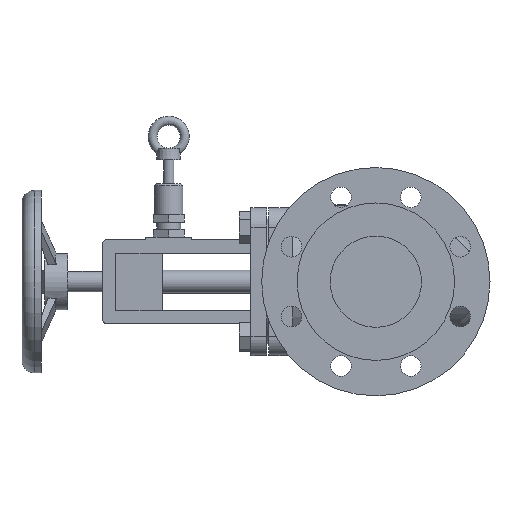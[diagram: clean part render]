
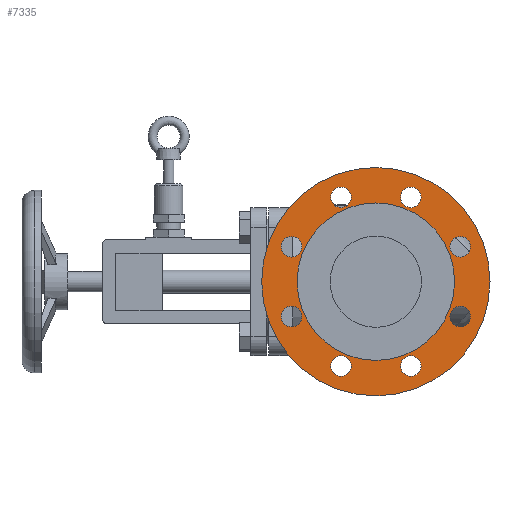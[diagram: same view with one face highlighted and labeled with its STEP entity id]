
A CAD part, left-side view. The second image highlights one B-rep face of the part: STEP entity #7335.
In plain terms, the highlighted planar face has unit normal (-1, 0, 0).
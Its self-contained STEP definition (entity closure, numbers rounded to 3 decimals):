
#226=FACE_BOUND('',#2624,.T.);
#227=FACE_BOUND('',#2625,.T.);
#228=FACE_BOUND('',#2626,.T.);
#229=FACE_BOUND('',#2627,.T.);
#230=FACE_BOUND('',#2628,.T.);
#231=FACE_BOUND('',#2629,.T.);
#232=FACE_BOUND('',#2630,.T.);
#233=FACE_BOUND('',#2631,.T.);
#234=FACE_BOUND('',#2632,.T.);
#1818=PLANE('',#7794);
#2189=FACE_OUTER_BOUND('',#2623,.T.);
#2623=EDGE_LOOP('',(#6501));
#2624=EDGE_LOOP('',(#6502));
#2625=EDGE_LOOP('',(#6503));
#2626=EDGE_LOOP('',(#6504));
#2627=EDGE_LOOP('',(#6505));
#2628=EDGE_LOOP('',(#6506));
#2629=EDGE_LOOP('',(#6507));
#2630=EDGE_LOOP('',(#6508));
#2631=EDGE_LOOP('',(#6509));
#2632=EDGE_LOOP('',(#6510));
#2756=CIRCLE('',#7703,100.);
#2759=CIRCLE('',#7707,9.);
#2761=CIRCLE('',#7710,9.);
#2763=CIRCLE('',#7713,9.);
#2765=CIRCLE('',#7716,9.);
#2767=CIRCLE('',#7719,9.);
#2769=CIRCLE('',#7722,9.);
#2771=CIRCLE('',#7725,9.);
#2773=CIRCLE('',#7728,9.);
#2774=CIRCLE('',#7730,69.);
#3526=VERTEX_POINT('',#12558);
#3529=VERTEX_POINT('',#12566);
#3531=VERTEX_POINT('',#12572);
#3533=VERTEX_POINT('',#12578);
#3535=VERTEX_POINT('',#12584);
#3537=VERTEX_POINT('',#12590);
#3539=VERTEX_POINT('',#12596);
#3541=VERTEX_POINT('',#12602);
#3543=VERTEX_POINT('',#12608);
#3544=VERTEX_POINT('',#12612);
#4460=EDGE_CURVE('',#3526,#3526,#2756,.T.);
#4465=EDGE_CURVE('',#3529,#3529,#2759,.T.);
#4468=EDGE_CURVE('',#3531,#3531,#2761,.T.);
#4471=EDGE_CURVE('',#3533,#3533,#2763,.T.);
#4474=EDGE_CURVE('',#3535,#3535,#2765,.T.);
#4477=EDGE_CURVE('',#3537,#3537,#2767,.T.);
#4480=EDGE_CURVE('',#3539,#3539,#2769,.T.);
#4483=EDGE_CURVE('',#3541,#3541,#2771,.T.);
#4486=EDGE_CURVE('',#3543,#3543,#2773,.T.);
#4487=EDGE_CURVE('',#3544,#3544,#2774,.T.);
#6501=ORIENTED_EDGE('',*,*,#4460,.F.);
#6502=ORIENTED_EDGE('',*,*,#4468,.F.);
#6503=ORIENTED_EDGE('',*,*,#4471,.F.);
#6504=ORIENTED_EDGE('',*,*,#4474,.F.);
#6505=ORIENTED_EDGE('',*,*,#4477,.F.);
#6506=ORIENTED_EDGE('',*,*,#4480,.F.);
#6507=ORIENTED_EDGE('',*,*,#4483,.F.);
#6508=ORIENTED_EDGE('',*,*,#4486,.F.);
#6509=ORIENTED_EDGE('',*,*,#4465,.F.);
#6510=ORIENTED_EDGE('',*,*,#4487,.F.);
#7335=ADVANCED_FACE('',(#2189,#226,#227,#228,#229,#230,#231,#232,#233,#234),
#1818,.F.);
#7703=AXIS2_PLACEMENT_3D('',#12559,#9025,#9026);
#7707=AXIS2_PLACEMENT_3D('',#12568,#9035,#9036);
#7710=AXIS2_PLACEMENT_3D('',#12574,#9042,#9043);
#7713=AXIS2_PLACEMENT_3D('',#12580,#9049,#9050);
#7716=AXIS2_PLACEMENT_3D('',#12586,#9056,#9057);
#7719=AXIS2_PLACEMENT_3D('',#12592,#9063,#9064);
#7722=AXIS2_PLACEMENT_3D('',#12598,#9070,#9071);
#7725=AXIS2_PLACEMENT_3D('',#12604,#9077,#9078);
#7728=AXIS2_PLACEMENT_3D('',#12610,#9084,#9085);
#7730=AXIS2_PLACEMENT_3D('',#12613,#9088,#9089);
#7794=AXIS2_PLACEMENT_3D('',#12845,#9311,#9312);
#9025=DIRECTION('center_axis',(1.,0.,0.));
#9026=DIRECTION('ref_axis',(0.,0.,-1.));
#9035=DIRECTION('center_axis',(-1.,0.,0.));
#9036=DIRECTION('ref_axis',(0.,0.,-1.));
#9042=DIRECTION('center_axis',(-1.,0.,0.));
#9043=DIRECTION('ref_axis',(0.,0.,-1.));
#9049=DIRECTION('center_axis',(-1.,0.,0.));
#9050=DIRECTION('ref_axis',(0.,0.,-1.));
#9056=DIRECTION('center_axis',(-1.,0.,0.));
#9057=DIRECTION('ref_axis',(0.,0.,-1.));
#9063=DIRECTION('center_axis',(-1.,0.,0.));
#9064=DIRECTION('ref_axis',(0.,0.,-1.));
#9070=DIRECTION('center_axis',(-1.,0.,0.));
#9071=DIRECTION('ref_axis',(0.,0.,-1.));
#9077=DIRECTION('center_axis',(-1.,0.,0.));
#9078=DIRECTION('ref_axis',(0.,0.,-1.));
#9084=DIRECTION('center_axis',(-1.,0.,0.));
#9085=DIRECTION('ref_axis',(0.,0.,-1.));
#9088=DIRECTION('center_axis',(-1.,0.,0.));
#9089=DIRECTION('ref_axis',(0.,1.,0.));
#9311=DIRECTION('center_axis',(1.,0.,0.));
#9312=DIRECTION('ref_axis',(0.,0.,-1.));
#12558=CARTESIAN_POINT('',(-162.138,-86.666,77.5));
#12559=CARTESIAN_POINT('Origin',(-162.138,-86.666,-22.5));
#12566=CARTESIAN_POINT('',(-162.138,-56.051,-87.41));
#12568=CARTESIAN_POINT('Origin',(-162.138,-56.051,-96.41));
#12572=CARTESIAN_POINT('',(-162.138,-117.281,-87.41));
#12574=CARTESIAN_POINT('Origin',(-162.138,-117.281,-96.41));
#12578=CARTESIAN_POINT('',(-162.138,-12.756,-44.115));
#12580=CARTESIAN_POINT('Origin',(-162.138,-12.756,-53.115));
#12584=CARTESIAN_POINT('',(-162.138,-160.576,-44.115));
#12586=CARTESIAN_POINT('Origin',(-162.138,-160.576,-53.115));
#12590=CARTESIAN_POINT('',(-162.138,-12.756,17.115));
#12592=CARTESIAN_POINT('Origin',(-162.138,-12.756,8.115));
#12596=CARTESIAN_POINT('',(-162.138,-160.576,17.115));
#12598=CARTESIAN_POINT('Origin',(-162.138,-160.576,8.115));
#12602=CARTESIAN_POINT('',(-162.138,-56.051,60.41));
#12604=CARTESIAN_POINT('Origin',(-162.138,-56.051,51.41));
#12608=CARTESIAN_POINT('',(-162.138,-117.281,60.41));
#12610=CARTESIAN_POINT('Origin',(-162.138,-117.281,51.41));
#12612=CARTESIAN_POINT('',(-162.138,-155.666,-22.5));
#12613=CARTESIAN_POINT('Origin',(-162.138,-86.666,-22.5));
#12845=CARTESIAN_POINT('Origin',(-162.138,-2.166,-22.5));
